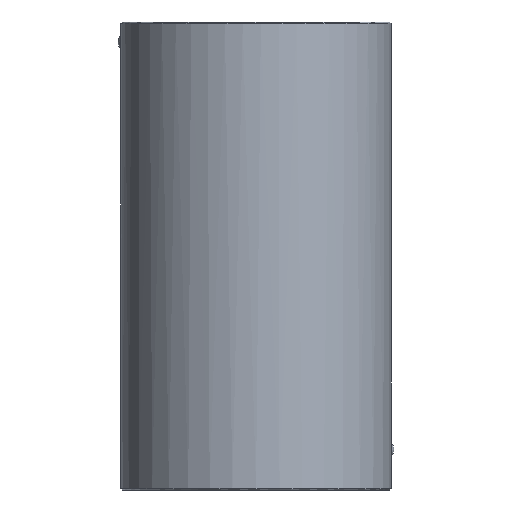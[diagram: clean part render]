
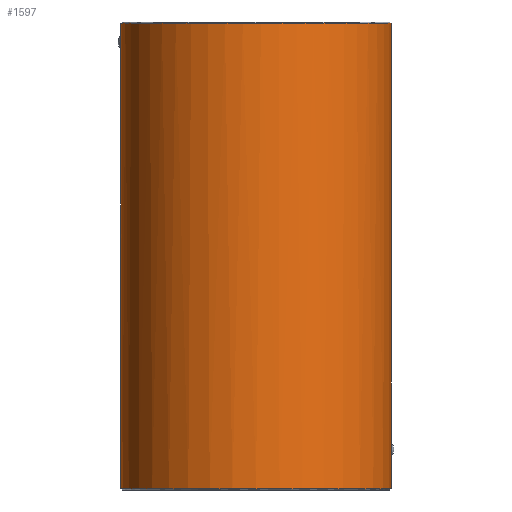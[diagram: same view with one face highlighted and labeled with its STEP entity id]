
A CAD part, front view. The second image highlights one B-rep face of the part: STEP entity #1597.
In plain terms, the highlighted cylindrical face has radius 27.5 mm (diameter 55 mm), a partial arc.
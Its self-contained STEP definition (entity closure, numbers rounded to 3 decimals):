
#1369=CARTESIAN_POINT('Vertex',(-27.5,0.,0.3)) ;
#1376=CARTESIAN_POINT('Vertex',(27.5,0.,0.3)) ;
#1379=CARTESIAN_POINT('Axis2P3D Location',(0.,0.,0.3)) ;
#1497=CARTESIAN_POINT('Axis2P3D Location',(0.,0.,95.)) ;
#1502=CARTESIAN_POINT('Line Origine',(27.5,0.,95.)) ;
#1506=CARTESIAN_POINT('Vertex',(27.5,0.,6.877)) ;
#1510=CARTESIAN_POINT('Control Point',(27.468,-1.333,8.463)) ;
#1511=CARTESIAN_POINT('Control Point',(27.463,-1.429,7.999)) ;
#1512=CARTESIAN_POINT('Control Point',(27.468,-1.314,7.487)) ;
#1513=CARTESIAN_POINT('Control Point',(27.49,-0.949,7.076)) ;
#1514=CARTESIAN_POINT('Control Point',(27.5,-0.474,6.877)) ;
#1515=CARTESIAN_POINT('Control Point',(27.5,0.,6.877)) ;
#1516=CARTESIAN_POINT('Vertex',(27.468,-1.333,8.463)) ;
#1520=CARTESIAN_POINT('Control Point',(27.5,0.,9.523)) ;
#1521=CARTESIAN_POINT('Control Point',(27.5,-0.461,9.523)) ;
#1522=CARTESIAN_POINT('Control Point',(27.488,-0.924,9.322)) ;
#1523=CARTESIAN_POINT('Control Point',(27.472,-1.239,8.914)) ;
#1524=CARTESIAN_POINT('Control Point',(27.468,-1.333,8.463)) ;
#1525=CARTESIAN_POINT('Vertex',(27.5,0.,9.523)) ;
#1528=CARTESIAN_POINT('Line Origine',(27.5,0.,95.)) ;
#1532=CARTESIAN_POINT('Vertex',(27.5,0.,94.7)) ;
#1536=CARTESIAN_POINT('Control Point',(-27.5,0.,94.7)) ;
#1537=CARTESIAN_POINT('Control Point',(-27.5,-4.32,94.7)) ;
#1538=CARTESIAN_POINT('Control Point',(-26.652,-8.639,94.7)) ;
#1539=CARTESIAN_POINT('Control Point',(-24.955,-12.737,94.7)) ;
#1540=CARTESIAN_POINT('Control Point',(-20.045,-20.045,94.7)) ;
#1541=CARTESIAN_POINT('Control Point',(-12.737,-24.955,94.7)) ;
#1542=CARTESIAN_POINT('Control Point',(-8.639,-26.652,94.7)) ;
#1543=CARTESIAN_POINT('Control Point',(0.,-28.348,94.7)) ;
#1544=CARTESIAN_POINT('Control Point',(8.639,-26.652,94.7)) ;
#1545=CARTESIAN_POINT('Control Point',(12.737,-24.955,94.7)) ;
#1546=CARTESIAN_POINT('Control Point',(20.045,-20.045,94.7)) ;
#1547=CARTESIAN_POINT('Control Point',(24.955,-12.737,94.7)) ;
#1548=CARTESIAN_POINT('Control Point',(26.652,-8.639,94.7)) ;
#1549=CARTESIAN_POINT('Control Point',(27.5,-4.32,94.7)) ;
#1550=CARTESIAN_POINT('Control Point',(27.5,0.,94.7)) ;
#1551=CARTESIAN_POINT('Vertex',(-27.5,0.,94.7)) ;
#1554=CARTESIAN_POINT('Line Origine',(-27.5,0.,95.)) ;
#1558=CARTESIAN_POINT('Vertex',(-27.5,0.,92.223)) ;
#1562=CARTESIAN_POINT('Control Point',(-27.468,-1.333,90.637)) ;
#1563=CARTESIAN_POINT('Control Point',(-27.463,-1.429,91.101)) ;
#1564=CARTESIAN_POINT('Control Point',(-27.468,-1.314,91.613)) ;
#1565=CARTESIAN_POINT('Control Point',(-27.49,-0.949,92.024)) ;
#1566=CARTESIAN_POINT('Control Point',(-27.5,-0.474,92.223)) ;
#1567=CARTESIAN_POINT('Control Point',(-27.5,0.,92.223)) ;
#1568=CARTESIAN_POINT('Vertex',(-27.468,-1.333,90.637)) ;
#1572=CARTESIAN_POINT('Control Point',(-27.5,0.,89.577)) ;
#1573=CARTESIAN_POINT('Control Point',(-27.5,-0.461,89.577)) ;
#1574=CARTESIAN_POINT('Control Point',(-27.488,-0.924,89.778)) ;
#1575=CARTESIAN_POINT('Control Point',(-27.472,-1.239,90.186)) ;
#1576=CARTESIAN_POINT('Control Point',(-27.468,-1.333,90.637)) ;
#1577=CARTESIAN_POINT('Vertex',(-27.5,0.,89.577)) ;
#1580=CARTESIAN_POINT('Line Origine',(-27.5,0.,95.)) ;
#1380=DIRECTION('Axis2P3D Direction',(0.,-0.,1.)) ;
#1498=DIRECTION('Axis2P3D Direction',(0.,0.,-1.)) ;
#1499=DIRECTION('Axis2P3D XDirection',(1.,0.,0.)) ;
#1503=DIRECTION('Vector Direction',(0.,0.,-1.)) ;
#1529=DIRECTION('Vector Direction',(0.,0.,-1.)) ;
#1555=DIRECTION('Vector Direction',(0.,0.,-1.)) ;
#1581=DIRECTION('Vector Direction',(0.,0.,-1.)) ;
#1381=AXIS2_PLACEMENT_3D('Circle Axis2P3D',#1379,#1380,$) ;
#1500=AXIS2_PLACEMENT_3D('Cylinder Axis2P3D',#1497,#1498,#1499) ;
#1586=ORIENTED_EDGE('',*,*,#1508,.T.) ;
#1587=ORIENTED_EDGE('',*,*,#1518,.F.) ;
#1588=ORIENTED_EDGE('',*,*,#1527,.F.) ;
#1589=ORIENTED_EDGE('',*,*,#1534,.T.) ;
#1590=ORIENTED_EDGE('',*,*,#1553,.F.) ;
#1591=ORIENTED_EDGE('',*,*,#1560,.T.) ;
#1592=ORIENTED_EDGE('',*,*,#1570,.F.) ;
#1593=ORIENTED_EDGE('',*,*,#1579,.F.) ;
#1594=ORIENTED_EDGE('',*,*,#1584,.T.) ;
#1595=ORIENTED_EDGE('',*,*,#1383,.T.) ;
#1504=VECTOR('Line Direction',#1503,1.) ;
#1530=VECTOR('Line Direction',#1529,1.) ;
#1556=VECTOR('Line Direction',#1555,1.) ;
#1582=VECTOR('Line Direction',#1581,1.) ;
#1597=ADVANCED_FACE('730-48x95',(#1596),#1501,.T.) ;
#1509=B_SPLINE_CURVE_WITH_KNOTS('',5,(#1510,#1511,#1512,#1513,#1514,#1515),.UNSPECIFIED.,.F.,.U.,(6,6),(0.,3.36),.UNSPECIFIED.) ;
#1519=B_SPLINE_CURVE_WITH_KNOTS('',4,(#1520,#1521,#1522,#1523,#1524),.UNSPECIFIED.,.F.,.U.,(5,5),(0.,2.611),.UNSPECIFIED.) ;
#1535=B_SPLINE_CURVE_WITH_KNOTS('',5,(#1536,#1537,#1538,#1539,#1540,#1541,#1542,#1543,#1544,#1545,#1546,#1547,#1548,#1549,#1550),.UNSPECIFIED.,.F.,.U.,(6,3,3,3,6),(-43.197,-21.598,0.,21.598,43.197),.UNSPECIFIED.) ;
#1561=B_SPLINE_CURVE_WITH_KNOTS('',5,(#1562,#1563,#1564,#1565,#1566,#1567),.UNSPECIFIED.,.F.,.U.,(6,6),(0.,3.36),.UNSPECIFIED.) ;
#1571=B_SPLINE_CURVE_WITH_KNOTS('',4,(#1572,#1573,#1574,#1575,#1576),.UNSPECIFIED.,.F.,.U.,(5,5),(0.,2.611),.UNSPECIFIED.) ;
#1382=CIRCLE('generated circle',#1381,27.5) ;
#1501=CYLINDRICAL_SURFACE('generated cylinder',#1500,27.5) ;
#1383=EDGE_CURVE('',#1370,#1377,#1382,.T.) ;
#1508=EDGE_CURVE('',#1377,#1507,#1505,.F.) ;
#1518=EDGE_CURVE('',#1517,#1507,#1509,.T.) ;
#1527=EDGE_CURVE('',#1526,#1517,#1519,.T.) ;
#1534=EDGE_CURVE('',#1526,#1533,#1531,.F.) ;
#1553=EDGE_CURVE('',#1552,#1533,#1535,.T.) ;
#1560=EDGE_CURVE('',#1552,#1559,#1557,.T.) ;
#1570=EDGE_CURVE('',#1569,#1559,#1561,.T.) ;
#1579=EDGE_CURVE('',#1578,#1569,#1571,.T.) ;
#1584=EDGE_CURVE('',#1578,#1370,#1583,.T.) ;
#1585=EDGE_LOOP('',(#1586,#1587,#1588,#1589,#1590,#1591,#1592,#1593,#1594,#1595)) ;
#1596=FACE_OUTER_BOUND('',#1585,.T.) ;
#1505=LINE('Line',#1502,#1504) ;
#1531=LINE('Line',#1528,#1530) ;
#1557=LINE('Line',#1554,#1556) ;
#1583=LINE('Line',#1580,#1582) ;
#1370=VERTEX_POINT('',#1369) ;
#1377=VERTEX_POINT('',#1376) ;
#1507=VERTEX_POINT('',#1506) ;
#1517=VERTEX_POINT('',#1516) ;
#1526=VERTEX_POINT('',#1525) ;
#1533=VERTEX_POINT('',#1532) ;
#1552=VERTEX_POINT('',#1551) ;
#1559=VERTEX_POINT('',#1558) ;
#1569=VERTEX_POINT('',#1568) ;
#1578=VERTEX_POINT('',#1577) ;
